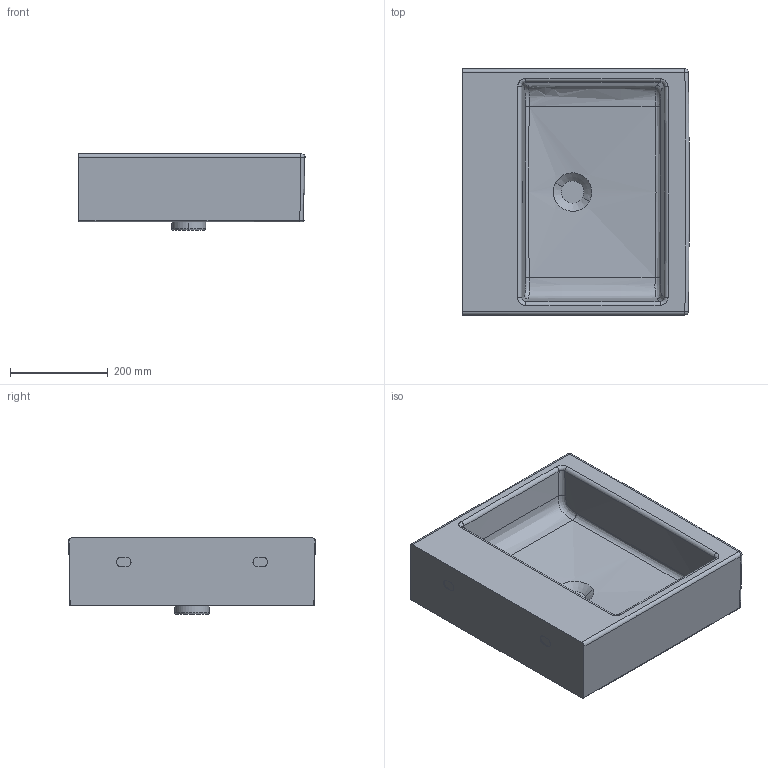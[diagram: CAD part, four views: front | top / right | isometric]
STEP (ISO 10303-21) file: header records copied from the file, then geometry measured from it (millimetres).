
FILE_DESCRIPTION(('CATIA V5 STEP'),'2;1');
FILE_NAME('G:\Laufen Similor\TPM-K\TPE\JStöckli\BIM\Living\17431\HY17431BIM.stp','2017-01-26T14:49:04+00:00',('none'),('none'),'CATIA Version 5 Release 19 SP 9 (IN-10)','CATIA V5 STEP AP203','none');
FILE_SCHEMA(('CONFIG_CONTROL_DESIGN'));
Length unit declared in the file: millimetre
Products named in the file (1): HY17431BIM
Bounding box: 464.05 x 505.43 x 157 mm (x, y, z)
Volume: 19612780.6 mm3; surface area: 851579.6 mm2
Topology: 1 solids, 1 shells, 66 faces, 164 edges, 107 vertices
Faces by surface type: bspline 21, plane 15, torus 11, cylinder 9, cone 8, sphere 2
Entity records: 6125 total; most frequent: CARTESIAN_POINT 4771, ORIENTED_EDGE 312, DIRECTION 164, EDGE_CURVE 156, VERTEX_POINT 98, AXIS2_PLACEMENT_3D 93, B_SPLINE_CURVE_WITH_KNOTS 78, EDGE_LOOP 72
